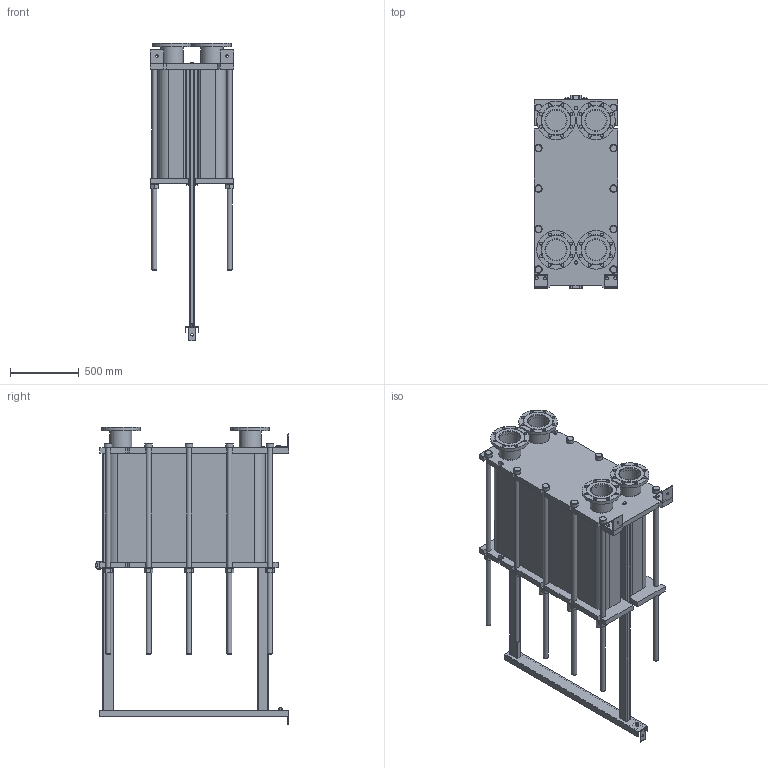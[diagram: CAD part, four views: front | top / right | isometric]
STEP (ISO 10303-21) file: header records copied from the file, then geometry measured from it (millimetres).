
FILE_DESCRIPTION(/* description */ (''),/* implementation_level */ '2;1');
FILE_NAME(/* name */ 'C:\Users\zhuro\Desktop\ENCO\TO\ЭН-041\ЭН-0,5-041-230-1.stp',/* time_stamp */ '2022-06-06T11:07:53+03:00',/* author */ ('zhuro'),/* organization */ (''),/* preprocessor_version */ 'ST-DEVELOPER v18.1',/* originating_system */ 'Autodesk Inventor 2022',/* authorisation */ '');
FILE_SCHEMA (('AUTOMOTIVE_DESIGN { 1 0 10303 214 3 1 1 }'));
Length unit declared in the file: millimetre
Products named in the file (1): ЭН-0,5-041-230-1
Bounding box: 610 x 1406.5 x 2165 mm (x, y, z)
Volume: 535902565.2 mm3; surface area: 11890904.5 mm2
Topology: 52 solids, 52 shells, 711 faces, 1696 edges, 1094 vertices
Faces by surface type: plane 487, cylinder 177, cone 41, torus 6
Full cylindrical faces by diameter (mm): 8 x4, 10 x2, 16 x8, 18 x3, 22 x32, 36 x24, 50 x1, 54 x10, 60 x12, 151 x4, 161 x8, 280 x4
Entity records: 22667 total; most frequent: CARTESIAN_POINT 5230, DIRECTION 3644, ORIENTED_EDGE 3392, EDGE_CURVE 1696, AXIS2_PLACEMENT_3D 1272, LINE 1100, VECTOR 1100, VERTEX_POINT 1094
